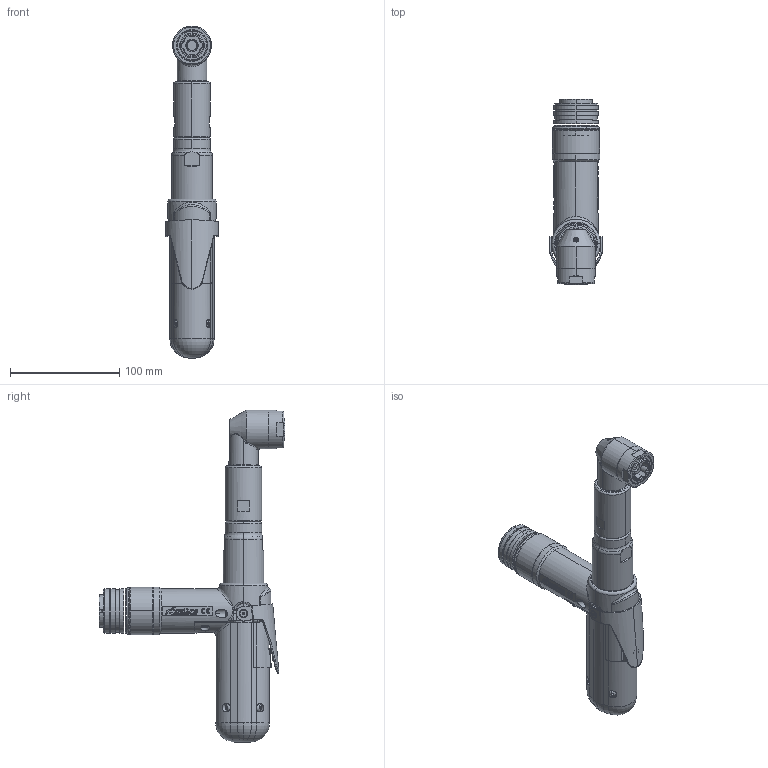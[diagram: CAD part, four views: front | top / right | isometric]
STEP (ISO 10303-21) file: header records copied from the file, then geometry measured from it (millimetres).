
FILE_DESCRIPTION (( 'STEP AP214' ), '1' );
FILE_NAME ('AEN4F22030BMF, AEN4F22037BMF, AEN22044BMF.STEP', '2016-04-20T00:10:39', ( 'AIMCO' ), ( '' ), 'SwSTEP 2.0', 'SolidWorks 2016', '' );
FILE_SCHEMA (( 'AUTOMOTIVE_DESIGN' ));
Length unit declared in the file: inch
Products named in the file (1): AEN4F22030BMF, AEN4F22037BMF, AEN22044BMF
Bounding box: 48.9 x 169.47 x 303.38 mm (x, y, z)
Surface area: 89452.8 mm2 (no closed solid volume)
Topology: 0 solids, 77 shells, 767 faces, 3840 edges, 3056 vertices
Faces by surface type: cylinder 298, plane 236, torus 112, cone 56, bspline 56, sphere 9
Entity records: 55593 total; most frequent: CARTESIAN_POINT 16215, DIRECTION 5987, ORIENTED_EDGE 5264, EDGE_CURVE 3836, VERTEX_POINT 3056, VECTOR 2277, LINE 2277, AXIS2_PLACEMENT_3D 1855
